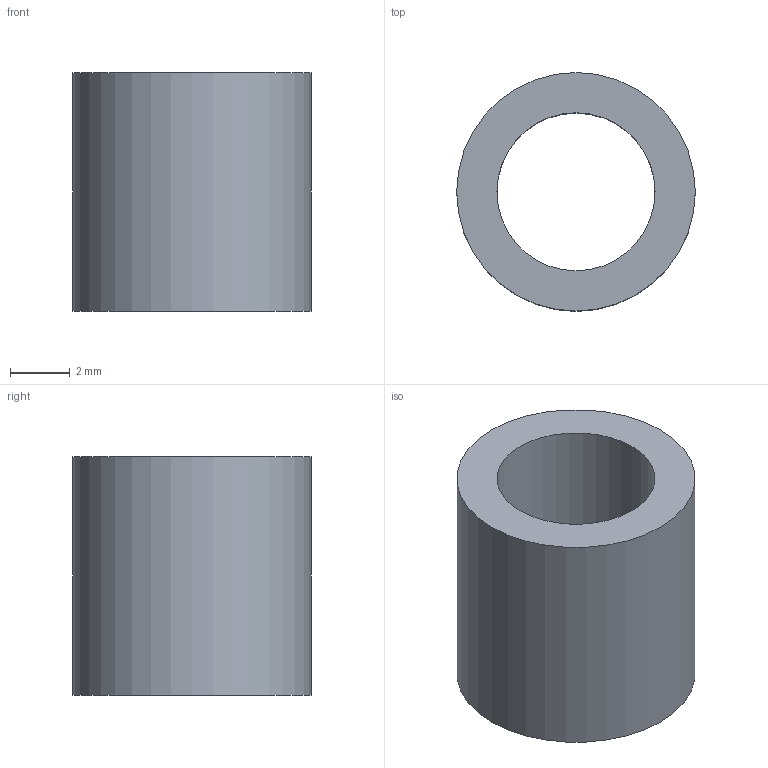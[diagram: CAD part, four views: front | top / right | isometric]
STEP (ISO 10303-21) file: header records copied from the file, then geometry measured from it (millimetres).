
FILE_DESCRIPTION(('Open CASCADE Model'),'2;1');
FILE_NAME('Open CASCADE Shape Model','2026-10-21T12:04:46',('Author'),( 'Open CASCADE'),'Open CASCADE STEP processor 7.9','Open CASCADE 7.9' ,'Unknown');
FILE_SCHEMA(('AUTOMOTIVE_DESIGN { 1 0 10303 214 1 1 1 1 }'));
Length unit declared in the file: millimetre
Products named in the file (1): Open CASCADE STEP translator 7.9 10
Bounding box: 8 x 8 x 8 mm (x, y, z)
Volume: 225.6 mm3; surface area: 390.7 mm2
Topology: 1 solids, 1 shells, 4 faces, 6 edges, 4 vertices
Faces by surface type: cylinder 2, plane 2
Full cylindrical faces by diameter (mm): 5.3 x1, 8 x1
Entity records: 192 total; most frequent: CARTESIAN_POINT 39, DIRECTION 30, ORIENTED_EDGE 12, PCURVE 12, DEFINITIONAL_REPRESENTATION 12, LINE 10, VECTOR 10, AXIS2_PLACEMENT_3D 9
